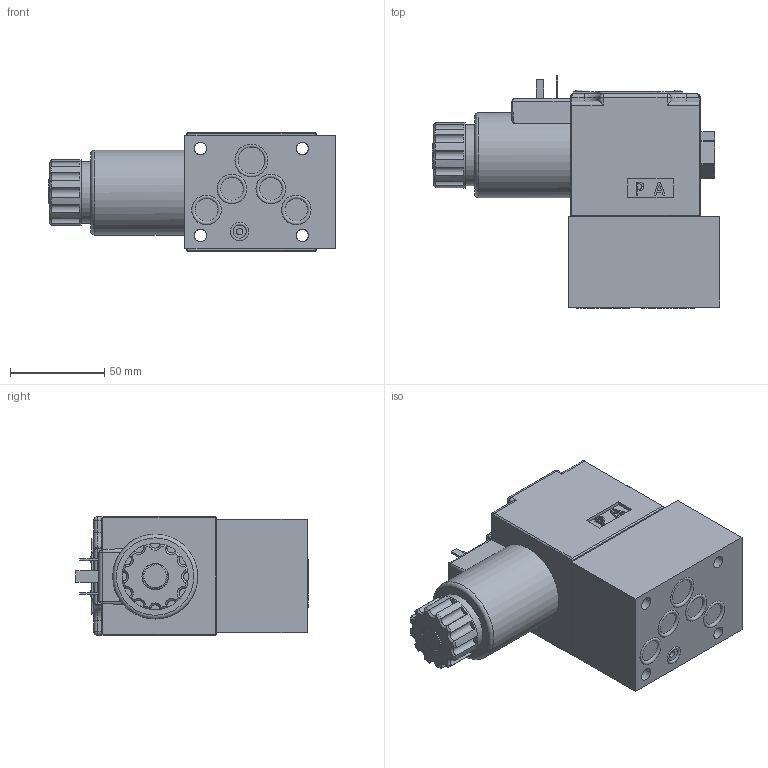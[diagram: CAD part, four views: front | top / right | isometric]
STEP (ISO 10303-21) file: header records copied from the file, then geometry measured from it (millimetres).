
FILE_DESCRIPTION(/* description */ (''),/* implementation_level */ '2;1');
FILE_NAME(/* name */ 'M-4SED10电磁球阀.prt.stp',/* time_stamp */ '2022-03-30T19:36:37+08:00',/* author */ (''),/* organization */ (''),/* preprocessor_version */ 'ST-DEVELOPER v16.7',/* originating_system */ 'SIEMENS PLM Software NX 12.0',/* authorisation */ '');
FILE_SCHEMA (('AUTOMOTIVE_DESIGN { 1 0 10303 214 3 1 1 1 }'));
Length unit declared in the file: millimetre
Products named in the file (1): M-4SED10电磁球阀
Bounding box: 152.5 x 123.03 x 63 mm (x, y, z)
Volume: 532335.8 mm3; surface area: 104521.6 mm2
Topology: 24 solids, 33 shells, 645 faces, 1563 edges, 972 vertices
Faces by surface type: cylinder 236, plane 210, extrusion 51, cone 51, torus 47, bspline 32, sphere 18
Full cylindrical faces by diameter (mm): 1.5 x1, 1.8 x4, 2 x8, 2.5 x1, 2.55 x19, 3 x3, 3.5 x2, 4 x1, 5 x1, 6.4 x4, 6.7 x4, 7 x1, 8 x3, 9.8 x1, 10 x1, 11 x5, 15.7 x8, 17.4 x2, 17.5 x1, 18 x1, 18.3 x1, 20.5 x4, 22 x1, 23 x2, 24 x1, 32.5 x1, 35 x1, 45 x1
Entity records: 29961 total; most frequent: CARTESIAN_POINT 15194, DIRECTION 2621, ORIENTED_EDGE 2620, EDGE_CURVE 1310, AXIS2_PLACEMENT_3D 1031, VERTEX_POINT 894, EDGE_LOOP 776, ADVANCED_FACE 626
